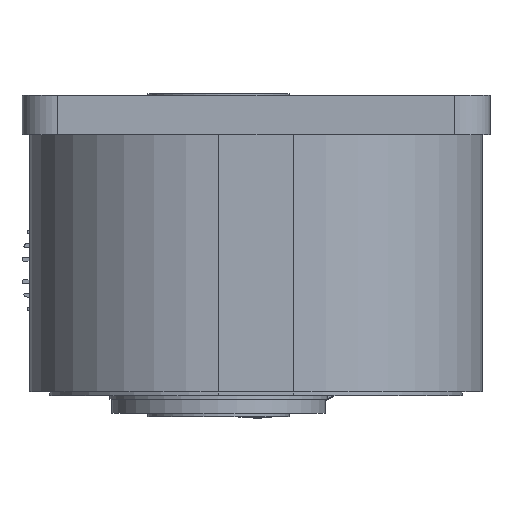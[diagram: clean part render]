
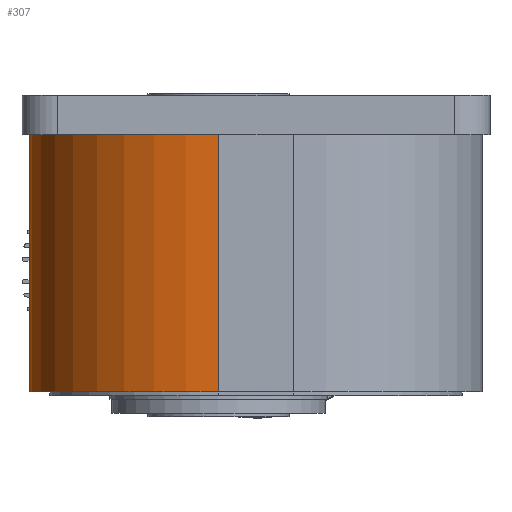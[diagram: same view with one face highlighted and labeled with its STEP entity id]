
A CAD part, left-side view. The second image highlights one B-rep face of the part: STEP entity #307.
In plain terms, the highlighted cylindrical face has radius 106 mm (diameter 212 mm), a partial arc.
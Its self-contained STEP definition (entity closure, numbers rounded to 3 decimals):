
#307 = ADVANCED_FACE( '', ( #1155 ), #1156, .T. );
#1155 = FACE_OUTER_BOUND( '', #2886, .T. );
#1156 = CYLINDRICAL_SURFACE( '', #2887, 106. );
#2886 = EDGE_LOOP( '', ( #4933, #4934, #4935, #4936 ) );
#2887 = AXIS2_PLACEMENT_3D( '', #4937, #4938, #4939 );
#4933 = ORIENTED_EDGE( '', *, *, #11335, .F. );
#4934 = ORIENTED_EDGE( '', *, *, #11402, .F. );
#4935 = ORIENTED_EDGE( '', *, *, #11393, .T. );
#4936 = ORIENTED_EDGE( '', *, *, #11403, .T. );
#4937 = CARTESIAN_POINT( '', ( -166., 0., -2.32 ) );
#4938 = DIRECTION( '', ( -1., 0., 0. ) );
#4939 = DIRECTION( '', ( 0., 0., -1. ) );
#11335 = EDGE_CURVE( '', #13622, #13624, #13625, .T. );
#11393 = EDGE_CURVE( '', #13723, #13720, #13724, .T. );
#11402 = EDGE_CURVE( '', #13723, #13622, #13738, .T. );
#11403 = EDGE_CURVE( '', #13720, #13624, #13739, .T. );
#13622 = VERTEX_POINT( '', #17258 );
#13624 = VERTEX_POINT( '', #17261 );
#13625 = CIRCLE( '', #17262, 106. );
#13720 = VERTEX_POINT( '', #17396 );
#13723 = VERTEX_POINT( '', #17400 );
#13724 = CIRCLE( '', #17401, 106. );
#13738 = LINE( '', #17420, #17421 );
#13739 = LINE( '', #17422, #17423 );
#17258 = CARTESIAN_POINT( '', ( -22., 106., -2.32 ) );
#17261 = CARTESIAN_POINT( '', ( -22., 0., 103.68 ) );
#17262 = AXIS2_PLACEMENT_3D( '', #22383, #22384, #22385 );
#17396 = CARTESIAN_POINT( '', ( -166., 0., 103.68 ) );
#17400 = CARTESIAN_POINT( '', ( -166., 106., -2.32 ) );
#17401 = AXIS2_PLACEMENT_3D( '', #22477, #22478, #22479 );
#17420 = CARTESIAN_POINT( '', ( -166., 106., -2.32 ) );
#17421 = VECTOR( '', #22494, 1000. );
#17422 = CARTESIAN_POINT( '', ( -166., 0., 103.68 ) );
#17423 = VECTOR( '', #22495, 1000. );
#22383 = CARTESIAN_POINT( '', ( -22., 0., -2.32 ) );
#22384 = DIRECTION( '', ( 1., 0., 0. ) );
#22385 = DIRECTION( '', ( 0., 0., -1. ) );
#22477 = CARTESIAN_POINT( '', ( -166., 0., -2.32 ) );
#22478 = DIRECTION( '', ( 1., 0., 0. ) );
#22479 = DIRECTION( '', ( 0., 0., -1. ) );
#22494 = DIRECTION( '', ( 1., 0., 0. ) );
#22495 = DIRECTION( '', ( 1., 0., 0. ) );
